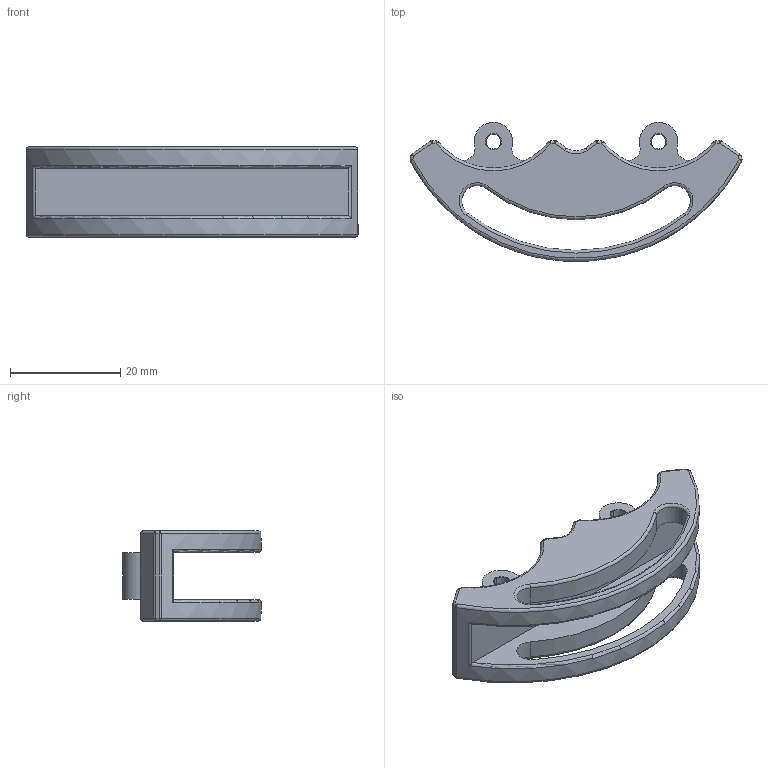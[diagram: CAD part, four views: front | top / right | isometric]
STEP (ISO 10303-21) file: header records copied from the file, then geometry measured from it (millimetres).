
FILE_DESCRIPTION((''),'2;1');
FILE_NAME('RUBY_FRJ_2','2025-03-19T14:34:59',('程川'),(''),'CREO PARAMETRIC BY PTC INC, 2021023','CREO PARAMETRIC BY PTC INC, 2021023','');
FILE_SCHEMA(('CONFIG_CONTROL_DESIGN','SHAPE_APPEARANCE_LAYERS_GROUPS'));
Length unit declared in the file: millimetre
Products named in the file (1): RUBY_FRJ_2
Bounding box: 60.32 x 25.25 x 16.4 mm (x, y, z)
Volume: 7191.4 mm3; surface area: 5514.9 mm2
Topology: 1 solids, 3 shells, 123 faces, 268 edges, 152 vertices
Faces by surface type: cylinder 60, sphere 24, plane 21, torus 18
Entity records: 3436 total; most frequent: DIRECTION 672, CARTESIAN_POINT 580, ORIENTED_EDGE 528, AXIS2_PLACEMENT_3D 288, EDGE_CURVE 268, CIRCLE 164, VERTEX_POINT 152, EDGE_LOOP 136
